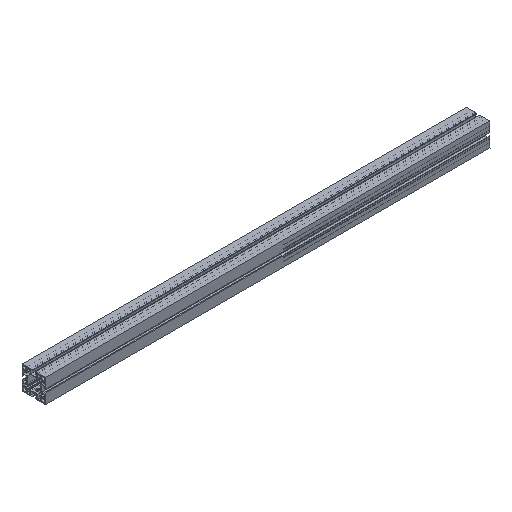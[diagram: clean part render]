
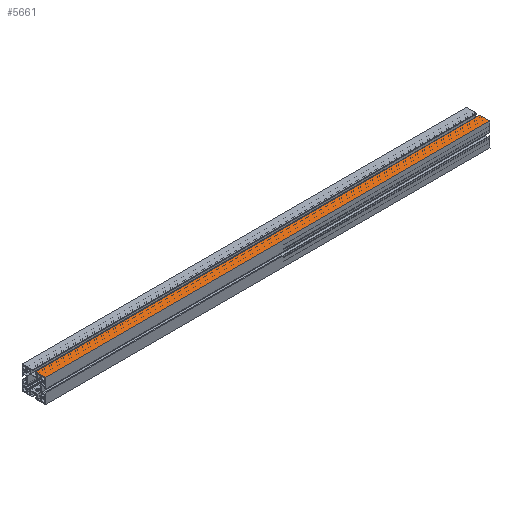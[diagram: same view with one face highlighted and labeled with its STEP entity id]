
A CAD part, isometric view. The second image highlights one B-rep face of the part: STEP entity #5661.
In plain terms, the highlighted planar face has unit normal (0, 0, 1).
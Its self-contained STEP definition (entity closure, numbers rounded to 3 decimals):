
#3006=ORIENTED_EDGE('',*,*,#4032,.T.);
#3007=ORIENTED_EDGE('',*,*,#4033,.F.);
#3008=ORIENTED_EDGE('',*,*,#4030,.F.);
#3009=ORIENTED_EDGE('',*,*,#3887,.T.);
#3307=VECTOR('',#4397,1.);
#3420=VECTOR('',#4634,1.);
#3422=VECTOR('',#4638,1.);
#3423=VECTOR('',#4639,1.);
#3503=LINE('',#4918,#3307);
#3616=LINE('',#5203,#3420);
#3618=LINE('',#5207,#3422);
#3619=LINE('',#5208,#3423);
#3702=VERTEX_POINT('',#4915);
#3703=VERTEX_POINT('',#4917);
#3813=VERTEX_POINT('',#5202);
#3814=VERTEX_POINT('',#5206);
#3887=EDGE_CURVE('',#3703,#3702,#3503,.T.);
#4030=EDGE_CURVE('',#3703,#3813,#3616,.T.);
#4032=EDGE_CURVE('',#3702,#3814,#3618,.T.);
#4033=EDGE_CURVE('',#3813,#3814,#3619,.T.);
#4174=EDGE_LOOP('',(#3006,#3007,#3008,#3009));
#4286=FACE_BOUND('',#4174,.T.);
#4397=DIRECTION('',(0.,25.75,0.));
#4634=DIRECTION('',(-1133.,0.,0.));
#4636=DIRECTION('',(0.,0.,1.));
#4637=DIRECTION('',(0.,-1.,0.));
#4638=DIRECTION('',(-1133.,0.,0.));
#4639=DIRECTION('',(0.,25.75,0.));
#4915=CARTESIAN_POINT('',(1133.,-4.25,30.));
#4917=CARTESIAN_POINT('',(1133.,-30.,30.));
#4918=CARTESIAN_POINT('',(1133.,-30.,30.));
#5202=CARTESIAN_POINT('',(0.,-30.,30.));
#5203=CARTESIAN_POINT('',(1133.,-30.,30.));
#5205=CARTESIAN_POINT('',(1868.,-4.25,30.));
#5206=CARTESIAN_POINT('',(0.,-4.25,30.));
#5207=CARTESIAN_POINT('',(1133.,-4.25,30.));
#5208=CARTESIAN_POINT('',(0.,-30.,30.));
#5481=AXIS2_PLACEMENT_3D('',#5205,#4636,#4637);
#5599=PLANE('',#5481);
#5661=ADVANCED_FACE('',(#4286),#5599,.T.);
